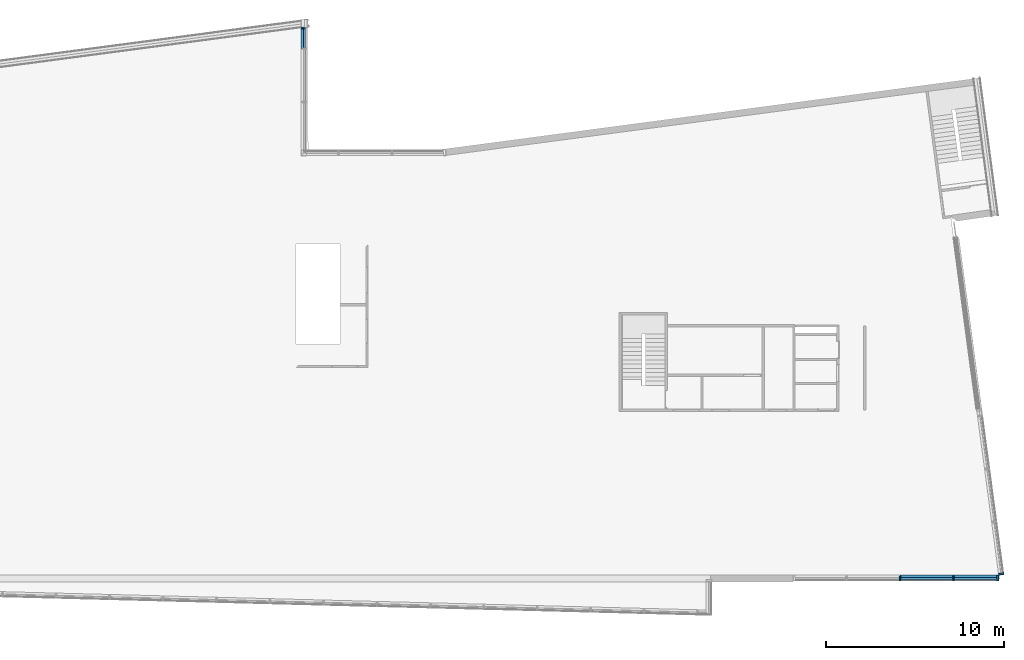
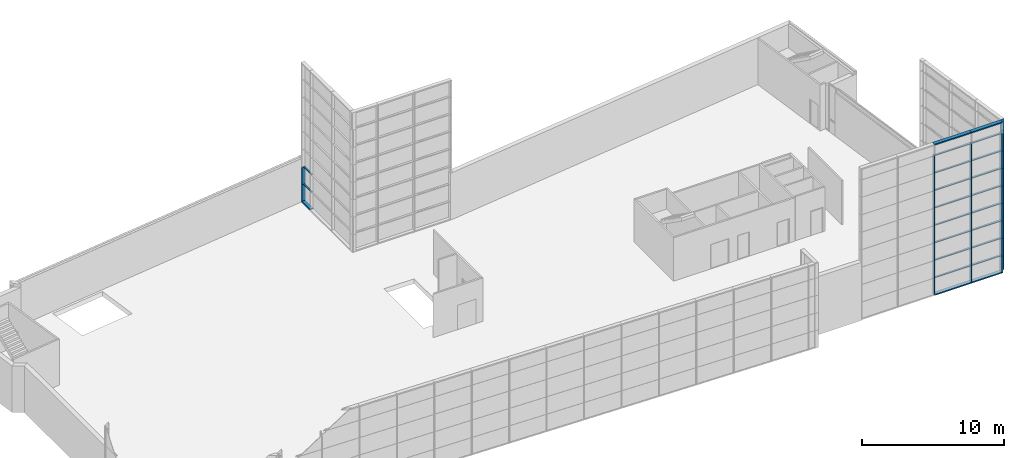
# One storey, part 9 of 27: 58 members, 3 elements without a shape of their own.
"""IFC2X3 building model written with IfcOpenShell, lengths in metres."""

from ifc_helpers import new_model, entity, si_unit, converted_unit, money_unit, direction, frame, origin_with_axes, place, context, subcontext, project, spatial, polyline, outline, extrude, clip, halfspace, material, type_object, element, aggregate, save


model = new_model("IFC2X3")

# Units and contexts
model_context = context("Model", 3, precision=1e-05, world=origin_with_axes(), true_north=direction((0.0, 1.0)))
body_context = subcontext(model_context, "Body", "Model", "MODEL_VIEW")
ifc_project = project(units=[si_unit("LENGTHUNIT", "METRE"), si_unit("AREAUNIT", "SQUARE_METRE"), si_unit("VOLUMEUNIT", "CUBIC_METRE"), converted_unit("PLANEANGLEUNIT", "DEGREE", entity("IfcPlaneAngleMeasure", 0.0174532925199), si_unit("PLANEANGLEUNIT", "RADIAN"), dimensions=[0, 0, 0, 0, 0, 0, 0]), si_unit("SOLIDANGLEUNIT", "STERADIAN"), money_unit("EUR"), converted_unit("TIMEUNIT", "Year", entity("IfcTimeMeasure", 31556926.0), si_unit("TIMEUNIT", "SECOND"), dimensions=[0, 0, 0, 0, 0, 0, 0]), si_unit("MASSUNIT", "GRAM"), si_unit("THERMODYNAMICTEMPERATUREUNIT", "DEGREE_CELSIUS"), si_unit("LUMINOUSINTENSITYUNIT", "LUMEN")], contexts=[model_context])

# Site, building, storey
site_placement = place(None, origin_with_axes())
site = spatial("IfcSite", under=ifc_project, at=site_placement, Name="Undefined", CompositionType="ELEMENT")
building_placement = place(site_placement, origin_with_axes())
building = spatial("IfcBuilding", under=site, at=building_placement, Name="Undefined", CompositionType="ELEMENT")
storey_placement = place(building_placement, frame((0.0, 0.0, 5.4), z_axis=(0.0, 0.0, 1.0), x_axis=(1.0, 0.0, 0.0)))
storey = spatial("IfcBuildingStorey", under=building, at=storey_placement, Name="R+1", CompositionType="ELEMENT", Elevation=5.4)

# Curtain wall, members
curtain_wall_type = type_object("IfcCurtainWallType", Name="Type de mur-rideau", PredefinedType="NOTDEFINED")
curtain_wall_1_placement = place(storey_placement, frame((29.5, 25.04409, 0.0), z_axis=(0.0, 0.0, 1.0), x_axis=(1.0, 0.0, 0.0)))
curtain_wall_1 = element("IfcCurtainWall", 1, at=curtain_wall_1_placement, inside=storey, type_object=curtain_wall_type, Name="CurtainWall_01", ObjectType="CURTAIN WALL")
ifc_material = material(Name="25 % 359672764")
member_type_1 = type_object("IfcMemberType", Name="Cadre 100 x 300", PredefinedType="NOTDEFINED")
member_1_placement = place(curtain_wall_1_placement, frame((0.0, 5.70529012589, 1.5), z_axis=(0.0, 0.0, 1.0), x_axis=(0.0, -1.0, 0.0)))
member_1 = element("IfcMember", 2, at=member_1_placement, type_object=member_type_1, material=ifc_material, Name="Frame-Bnd-267", context=body_context, shape_type="SweptSolid", body=[
    extrude(outline(polyline([(-0.25, -0.1), (0.05, -0.1), (0.05, 0.0), (-0.25, 0.0), (-0.25, -0.1)])), frame((0.0, 0.0, 0.0), z_axis=(0.0, 0.0, 1.0), x_axis=(0.0, 1.0, 0.0)), (0.0, 0.0, 1.0), 1.5),
])
member_2_placement = place(curtain_wall_1_placement, frame((0.0, 5.70529012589, 0.0), z_axis=(0.0, 0.0, 1.0), x_axis=(0.0, -1.0, 0.0)))
member_2 = element("IfcMember", 3, at=member_2_placement, type_object=member_type_1, material=ifc_material, Name="Frame-Bnd-268", context=body_context, shape_type="Clipping", body=[
    clip(extrude(outline(polyline([(-0.25, -0.1), (0.05, -0.1), (0.05, 0.0), (-0.25, 0.0), (-0.25, -0.1)])), frame((0.0, 0.0, 0.0), z_axis=(0.0, 0.0, 1.0), x_axis=(0.0, 1.0, 0.0)), (0.0, 0.0, 1.0), 1.5), halfspace(frame((0.0, 0.0, 0.0), z_axis=(-0.707106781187, 0.0, 0.707106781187), x_axis=(0.0, -1.0, 0.0)), True)),
])
member_3_placement = place(curtain_wall_1_placement, frame((0.0, 4.5, 0.0), z_axis=(0.0, 1.0, 0.0), x_axis=(0.0, 0.0, 1.0)))
member_3 = element("IfcMember", 4, at=member_3_placement, type_object=member_type_1, material=ifc_material, Name="Frame-Bnd-269", context=body_context, shape_type="Clipping", body=[
    clip(extrude(outline(polyline([(-0.25, -0.1), (0.05, -0.1), (0.05, 0.0), (-0.25, 0.0), (-0.25, -0.1)])), frame((0.0, 0.0, 0.0), z_axis=(0.0, 0.0, 1.0), x_axis=(0.0, 1.0, 0.0)), (0.0, 0.0, 1.0), 1.20529012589), halfspace(frame((0.602645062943, 0.0, 0.602645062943), z_axis=(-0.707106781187, 0.0, -0.707106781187), x_axis=(0.0, 1.0, 0.0)), True)),
])

curtain_wall_2_placement = place(storey_placement, frame((68.4320700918, 1.51988738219, -1.0), z_axis=(0.0, 0.0, 1.0), x_axis=(1.0, 0.0, 0.0)))
curtain_wall_2 = element("IfcCurtainWall", 5, at=curtain_wall_2_placement, inside=storey, type_object=curtain_wall_type, Name="CurtainWall_01", ObjectType="CURTAIN WALL")
member_4_placement = place(curtain_wall_2_placement, frame((0.198383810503, -1.48682341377, 0.0), z_axis=(0.0, 0.0, 1.0), x_axis=(0.132255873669, -0.991215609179, 0.0)))
member_4 = element("IfcMember", 6, at=member_4_placement, type_object=member_type_1, material=ifc_material, Name="Frame-Bnd-716", context=body_context, shape_type="Clipping", body=[
    clip(extrude(outline(polyline([(-0.247803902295, -0.0330639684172), (0.0495607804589, 0.00661279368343), (0.0363351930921, 0.105734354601), (-0.261029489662, 0.0660575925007), (-0.247803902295, -0.0330639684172)])), frame((0.0, 0.0, 0.0), z_axis=(0.0, 0.0, 1.0), x_axis=(0.132255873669, 0.991215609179, 0.0)), (0.0, 0.0, 1.0), 1.5), halfspace(frame((0.0, 0.0, 0.0), z_axis=(0.707106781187, 0.0, 0.707106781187), x_axis=(0.0, -1.0, 0.0)), True)),
])
member_5_placement = place(curtain_wall_2_placement, frame((0.198383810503, -1.48682341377, 1.5), z_axis=(0.0, 0.0, 1.0), x_axis=(0.132255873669, -0.991215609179, 0.0)))
member_5 = element("IfcMember", 7, at=member_5_placement, type_object=member_type_1, material=ifc_material, Name="Frame-Bnd-716", context=body_context, shape_type="SweptSolid", body=[
    extrude(outline(polyline([(-0.247803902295, -0.0330639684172), (0.0495607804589, 0.00661279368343), (0.0363351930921, 0.105734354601), (-0.261029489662, 0.0660575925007), (-0.247803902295, -0.0330639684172)])), frame((0.0, 0.0, 0.0), z_axis=(0.0, 0.0, 1.0), x_axis=(0.132255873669, 0.991215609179, 0.0)), (0.0, 0.0, 1.0), 1.5),
])
member_6_placement = place(curtain_wall_2_placement, frame((0.198383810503, -1.48682341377, 3.0), z_axis=(0.0, 0.0, 1.0), x_axis=(0.132255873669, -0.991215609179, 0.0)))
member_6 = element("IfcMember", 8, at=member_6_placement, type_object=member_type_1, material=ifc_material, Name="Frame-Bnd-716", context=body_context, shape_type="SweptSolid", body=[
    extrude(outline(polyline([(-0.247803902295, -0.0330639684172), (0.0495607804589, 0.00661279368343), (0.0363351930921, 0.105734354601), (-0.261029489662, 0.0660575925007), (-0.247803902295, -0.0330639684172)])), frame((0.0, 0.0, 0.0), z_axis=(0.0, 0.0, 1.0), x_axis=(0.132255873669, 0.991215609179, 0.0)), (0.0, 0.0, 1.0), 1.5),
])
member_7_placement = place(curtain_wall_2_placement, frame((0.198383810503, -1.48682341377, 4.5), z_axis=(0.0, 0.0, 1.0), x_axis=(0.132255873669, -0.991215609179, 0.0)))
member_7 = element("IfcMember", 9, at=member_7_placement, type_object=member_type_1, material=ifc_material, Name="Frame-Bnd-716", context=body_context, shape_type="SweptSolid", body=[
    extrude(outline(polyline([(-0.247803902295, -0.0330639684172), (0.0495607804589, 0.00661279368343), (0.0363351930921, 0.105734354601), (-0.261029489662, 0.0660575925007), (-0.247803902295, -0.0330639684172)])), frame((0.0, 0.0, 0.0), z_axis=(0.0, 0.0, 1.0), x_axis=(0.132255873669, 0.991215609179, 0.0)), (0.0, 0.0, 1.0), 1.5),
])
member_8_placement = place(curtain_wall_2_placement, frame((0.198383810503, -1.48682341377, 6.0), z_axis=(0.0, 0.0, 1.0), x_axis=(0.132255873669, -0.991215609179, 0.0)))
member_8 = element("IfcMember", 10, at=member_8_placement, type_object=member_type_1, material=ifc_material, Name="Frame-Bnd-716", context=body_context, shape_type="SweptSolid", body=[
    extrude(outline(polyline([(-0.247803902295, -0.0330639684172), (0.0495607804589, 0.00661279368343), (0.0363351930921, 0.105734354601), (-0.261029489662, 0.0660575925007), (-0.247803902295, -0.0330639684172)])), frame((0.0, 0.0, 0.0), z_axis=(0.0, 0.0, 1.0), x_axis=(0.132255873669, 0.991215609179, 0.0)), (0.0, 0.0, 1.0), 1.5),
])
member_9_placement = place(curtain_wall_2_placement, frame((0.198383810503, -1.48682341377, 7.5), z_axis=(0.0, 0.0, 1.0), x_axis=(0.132255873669, -0.991215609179, 0.0)))
member_9 = element("IfcMember", 11, at=member_9_placement, type_object=member_type_1, material=ifc_material, Name="Frame-Bnd-716", context=body_context, shape_type="SweptSolid", body=[
    extrude(outline(polyline([(-0.247803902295, -0.0330639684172), (0.0495607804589, 0.00661279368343), (0.0363351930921, 0.105734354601), (-0.261029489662, 0.0660575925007), (-0.247803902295, -0.0330639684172)])), frame((0.0, 0.0, 0.0), z_axis=(0.0, 0.0, 1.0), x_axis=(0.132255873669, 0.991215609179, 0.0)), (0.0, 0.0, 1.0), 1.5),
])
member_10_placement = place(curtain_wall_2_placement, frame((0.198383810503, -1.48682341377, 9.0), z_axis=(0.0, 0.0, 1.0), x_axis=(0.132255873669, -0.991215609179, 0.0)))
member_10 = element("IfcMember", 12, at=member_10_placement, type_object=member_type_1, material=ifc_material, Name="Frame-Bnd-716", context=body_context, shape_type="SweptSolid", body=[
    extrude(outline(polyline([(-0.247803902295, -0.0330639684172), (0.0495607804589, 0.00661279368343), (0.0363351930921, 0.105734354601), (-0.261029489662, 0.0660575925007), (-0.247803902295, -0.0330639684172)])), frame((0.0, 0.0, 0.0), z_axis=(0.0, 0.0, 1.0), x_axis=(0.132255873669, 0.991215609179, 0.0)), (0.0, 0.0, 1.0), 1.5),
])
member_11_placement = place(curtain_wall_2_placement, frame((0.198383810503, -1.48682341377, 10.5), z_axis=(0.0, 0.0, 1.0), x_axis=(0.132255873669, -0.991215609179, 0.0)))
member_11 = element("IfcMember", 13, at=member_11_placement, type_object=member_type_1, material=ifc_material, Name="Frame-Bnd-716", context=body_context, shape_type="SweptSolid", body=[
    extrude(outline(polyline([(-0.247803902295, -0.0330639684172), (0.0495607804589, 0.00661279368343), (0.0363351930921, 0.105734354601), (-0.261029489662, 0.0660575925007), (-0.247803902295, -0.0330639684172)])), frame((0.0, 0.0, 0.0), z_axis=(0.0, 0.0, 1.0), x_axis=(0.132255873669, 0.991215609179, 0.0)), (0.0, 0.0, 1.0), 1.5),
])
member_12_placement = place(curtain_wall_2_placement, frame((0.198383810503, -1.48682341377, 12.0), z_axis=(0.0, 0.0, 1.0), x_axis=(0.132255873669, -0.991215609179, 0.0)))
member_12 = element("IfcMember", 14, at=member_12_placement, type_object=member_type_1, material=ifc_material, Name="Frame-Bnd-865", context=body_context, shape_type="Clipping", body=[
    clip(extrude(outline(polyline([(-0.247803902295, -0.0330639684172), (0.0495607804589, 0.00661279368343), (0.0363351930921, 0.105734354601), (-0.261029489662, 0.0660575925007), (-0.247803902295, -0.0330639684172)])), frame((0.0, 0.0, 0.0), z_axis=(0.0, 0.0, 1.0), x_axis=(0.132255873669, 0.991215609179, 0.0)), (0.0, 0.0, 1.0), 1.00000002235), halfspace(frame((-0.500000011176, 0.0, 0.500000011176), z_axis=(0.707106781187, 0.0, -0.707106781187), x_axis=(0.0, 1.0, 0.0)), True)),
])
aggregate(curtain_wall_2, [member_4, member_5, member_6, member_7, member_8, member_9, member_10, member_11, member_12])

curtain_wall_3_placement = place(storey_placement, frame((58.35, -0.25, -1.0), z_axis=(0.0, 0.0, 1.0), x_axis=(1.0, 0.0, 0.0)))
curtain_wall_3 = element("IfcCurtainWall", 15, at=curtain_wall_3_placement, inside=storey, type_object=curtain_wall_type, Name="CurtainWall_01", ObjectType="CURTAIN WALL")
member_13_placement = place(curtain_wall_3_placement, frame((4.5, 0.0, 0.0), z_axis=(1.0, 0.0, 0.0), x_axis=(0.0, 0.0, 1.0)))
member_13 = element("IfcMember", 16, at=member_13_placement, type_object=member_type_1, material=ifc_material, Name="Frame-Bnd-832", context=body_context, shape_type="SweptSolid", body=[
    extrude(outline(polyline([(-0.25, -0.1), (0.05, -0.1), (0.05, 0.0), (-0.25, 0.0), (-0.25, -0.1)])), frame((0.0, 0.0, 0.0), z_axis=(0.0, 0.0, 1.0), x_axis=(0.0, 1.0, 0.0)), (0.0, 0.0, 1.0), 3.0),
])
member_14_placement = place(curtain_wall_3_placement, frame((10.032649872, 0.0, 10.5), z_axis=(0.0, 0.0, 1.0), x_axis=(-1.0, 0.0, 0.0)))
member_14 = element("IfcMember", 17, at=member_14_placement, type_object=member_type_1, material=ifc_material, Name="Frame-Bnd-832", context=body_context, shape_type="SweptSolid", body=[
    extrude(outline(polyline([(-0.1, 0.25), (-0.1, -0.05), (0.0, -0.05), (0.0, 0.25), (-0.1, 0.25)])), frame((0.0, 0.0, 0.0), z_axis=(0.0, 0.0, 1.0), x_axis=(-1.0, 0.0, 0.0)), (0.0, 0.0, 1.0), 1.5),
])
member_15_placement = place(curtain_wall_3_placement, frame((10.032649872, 0.0, 9.0), z_axis=(0.0, 0.0, 1.0), x_axis=(-1.0, 0.0, 0.0)))
member_15 = element("IfcMember", 18, at=member_15_placement, type_object=member_type_1, material=ifc_material, Name="Frame-Bnd-832", context=body_context, shape_type="SweptSolid", body=[
    extrude(outline(polyline([(-0.1, 0.25), (-0.1, -0.05), (0.0, -0.05), (0.0, 0.25), (-0.1, 0.25)])), frame((0.0, 0.0, 0.0), z_axis=(0.0, 0.0, 1.0), x_axis=(-1.0, 0.0, 0.0)), (0.0, 0.0, 1.0), 1.5),
])
member_16_placement = place(curtain_wall_3_placement, frame((10.032649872, 0.0, 7.5), z_axis=(0.0, 0.0, 1.0), x_axis=(-1.0, 0.0, 0.0)))
member_16 = element("IfcMember", 19, at=member_16_placement, type_object=member_type_1, material=ifc_material, Name="Frame-Bnd-832", context=body_context, shape_type="SweptSolid", body=[
    extrude(outline(polyline([(-0.1, 0.25), (-0.1, -0.05), (0.0, -0.05), (0.0, 0.25), (-0.1, 0.25)])), frame((0.0, 0.0, 0.0), z_axis=(0.0, 0.0, 1.0), x_axis=(-1.0, 0.0, 0.0)), (0.0, 0.0, 1.0), 1.5),
])
member_17_placement = place(curtain_wall_3_placement, frame((10.032649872, 0.0, 6.0), z_axis=(0.0, 0.0, 1.0), x_axis=(-1.0, 0.0, 0.0)))
member_17 = element("IfcMember", 20, at=member_17_placement, type_object=member_type_1, material=ifc_material, Name="Frame-Bnd-832", context=body_context, shape_type="SweptSolid", body=[
    extrude(outline(polyline([(-0.1, 0.25), (-0.1, -0.05), (0.0, -0.05), (0.0, 0.25), (-0.1, 0.25)])), frame((0.0, 0.0, 0.0), z_axis=(0.0, 0.0, 1.0), x_axis=(-1.0, 0.0, 0.0)), (0.0, 0.0, 1.0), 1.5),
])
member_18_placement = place(curtain_wall_3_placement, frame((10.032649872, 0.0, 4.5), z_axis=(0.0, 0.0, 1.0), x_axis=(-1.0, 0.0, 0.0)))
member_18 = element("IfcMember", 21, at=member_18_placement, type_object=member_type_1, material=ifc_material, Name="Frame-Bnd-832", context=body_context, shape_type="SweptSolid", body=[
    extrude(outline(polyline([(-0.1, 0.25), (-0.1, -0.05), (0.0, -0.05), (0.0, 0.25), (-0.1, 0.25)])), frame((0.0, 0.0, 0.0), z_axis=(0.0, 0.0, 1.0), x_axis=(-1.0, 0.0, 0.0)), (0.0, 0.0, 1.0), 1.5),
])
member_19_placement = place(curtain_wall_3_placement, frame((10.032649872, 0.0, 3.0), z_axis=(0.0, 0.0, 1.0), x_axis=(-1.0, 0.0, 0.0)))
member_19 = element("IfcMember", 22, at=member_19_placement, type_object=member_type_1, material=ifc_material, Name="Frame-Bnd-832", context=body_context, shape_type="SweptSolid", body=[
    extrude(outline(polyline([(-0.1, 0.25), (-0.1, -0.05), (0.0, -0.05), (0.0, 0.25), (-0.1, 0.25)])), frame((0.0, 0.0, 0.0), z_axis=(0.0, 0.0, 1.0), x_axis=(-1.0, 0.0, 0.0)), (0.0, 0.0, 1.0), 1.5),
])
member_20_placement = place(curtain_wall_3_placement, frame((10.032649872, 0.0, 1.5), z_axis=(0.0, 0.0, 1.0), x_axis=(-1.0, 0.0, 0.0)))
member_20 = element("IfcMember", 23, at=member_20_placement, type_object=member_type_1, material=ifc_material, Name="Frame-Bnd-832", context=body_context, shape_type="SweptSolid", body=[
    extrude(outline(polyline([(-0.1, 0.25), (-0.1, -0.05), (0.0, -0.05), (0.0, 0.25), (-0.1, 0.25)])), frame((0.0, 0.0, 0.0), z_axis=(0.0, 0.0, 1.0), x_axis=(-1.0, 0.0, 0.0)), (0.0, 0.0, 1.0), 1.5),
])
member_21_placement = place(curtain_wall_3_placement, frame((10.032649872, 0.0, 0.0), z_axis=(0.0, 0.0, 1.0), x_axis=(-1.0, 0.0, 0.0)))
member_21 = element("IfcMember", 24, at=member_21_placement, type_object=member_type_1, material=ifc_material, Name="Frame-Bnd-832", context=body_context, shape_type="Clipping", body=[
    clip(extrude(outline(polyline([(-0.1, 0.25), (-0.1, -0.05), (0.0, -0.05), (0.0, 0.25), (-0.1, 0.25)])), frame((0.0, 0.0, 0.0), z_axis=(0.0, 0.0, 1.0), x_axis=(-1.0, 0.0, 0.0)), (0.0, 0.0, 1.0), 1.5), halfspace(frame((0.0, 0.0, 0.0), z_axis=(-0.707106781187, 0.0, 0.707106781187), x_axis=(0.0, -1.0, 0.0)), True)),
])
member_22_placement = place(curtain_wall_3_placement, frame((7.5, 0.0, 0.0), z_axis=(1.0, 0.0, 0.0), x_axis=(0.0, 0.0, 1.0)))
member_22 = element("IfcMember", 25, at=member_22_placement, type_object=member_type_1, material=ifc_material, Name="Frame-Bnd-832", context=body_context, shape_type="Clipping", body=[
    clip(extrude(outline(polyline([(-0.25, -0.1), (0.05, -0.1), (0.05, 0.0), (-0.25, 0.0), (-0.25, -0.1)])), frame((0.0, 0.0, 0.0), z_axis=(0.0, 0.0, 1.0), x_axis=(0.0, 1.0, 0.0)), (0.0, 0.0, 1.0), 2.532649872), halfspace(frame((1.266324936, 0.0, 1.266324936), z_axis=(-0.707106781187, 0.0, -0.707106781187), x_axis=(0.0, 1.0, 0.0)), True)),
])
member_23_placement = place(curtain_wall_3_placement, frame((7.5, 0.0, 13.0000000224), z_axis=(-1.0, 0.0, 0.0), x_axis=(0.0, 0.0, -1.0)))
member_23 = element("IfcMember", 26, at=member_23_placement, type_object=member_type_1, material=ifc_material, Name="Frame-Bnd-906", context=body_context, shape_type="SweptSolid", body=[
    extrude(outline(polyline([(0.25, 0.1), (-0.05, 0.1), (-0.05, 0.0), (0.25, 0.0), (0.25, 0.1)])), frame((0.0, 0.0, 0.0), z_axis=(0.0, 0.0, 1.0), x_axis=(0.0, -1.0, 0.0)), (0.0, 0.0, 1.0), 3.0),
])
member_24_placement = place(curtain_wall_3_placement, frame((10.0326499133, 0.0, 13.0000000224), z_axis=(-1.0, 0.0, 0.0), x_axis=(0.0, 0.0, -1.0)))
member_24 = element("IfcMember", 27, at=member_24_placement, type_object=member_type_1, material=ifc_material, Name="Frame-Bnd-907", context=body_context, shape_type="Clipping", body=[
    clip(extrude(outline(polyline([(0.25, 0.1), (-0.05, 0.1), (-0.05, 0.0), (0.25, 0.0), (0.25, 0.1)])), frame((0.0, 0.0, 0.0), z_axis=(0.0, 0.0, 1.0), x_axis=(0.0, -1.0, 0.0)), (0.0, 0.0, 1.0), 2.53264991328), halfspace(frame((0.0, 0.0, 0.0), z_axis=(-0.70710679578, 0.0, 0.707106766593), x_axis=(0.0, -1.0, 0.0)), True)),
])
member_type_2 = type_object("IfcMemberType", Name="Montant 80 x 250", PredefinedType="NOTDEFINED")
member_25_placement = place(curtain_wall_3_placement, frame((4.5, 0.0, 0.0), z_axis=(0.0, 0.0, 1.0), x_axis=(-1.0, 0.0, 0.0)))
member_25 = element("IfcMember", 28, at=member_25_placement, type_object=member_type_2, material=ifc_material, Name="Frame-Mll-300", context=body_context, shape_type="SweptSolid", body=[
    extrude(outline(polyline([(-0.04, 0.2), (-0.04, -0.05), (0.04, -0.05), (0.04, 0.2), (-0.04, 0.2)])), frame((0.0, 0.0, 0.1), z_axis=(0.0, 0.0, 1.0), x_axis=(-1.0, 0.0, 0.0)), (0.0, 0.0, 1.0), 1.4),
])
member_26_placement = place(curtain_wall_3_placement, frame((7.5, 0.0, 0.0), z_axis=(0.0, 0.0, 1.0), x_axis=(-1.0, 0.0, 0.0)))
member_26 = element("IfcMember", 29, at=member_26_placement, type_object=member_type_2, material=ifc_material, Name="Frame-Mll-300", context=body_context, shape_type="SweptSolid", body=[
    extrude(outline(polyline([(-0.04, 0.2), (-0.04, -0.05), (0.04, -0.05), (0.04, 0.2), (-0.04, 0.2)])), frame((0.0, 0.0, 0.1), z_axis=(0.0, 0.0, 1.0), x_axis=(-1.0, 0.0, 0.0)), (0.0, 0.0, 1.0), 1.4),
])
member_27_placement = place(curtain_wall_3_placement, frame((4.5, 0.0, 1.5), z_axis=(0.0, 0.0, 1.0), x_axis=(-1.0, 0.0, 0.0)))
member_27 = element("IfcMember", 30, at=member_27_placement, type_object=member_type_2, material=ifc_material, Name="Frame-Mll-300", context=body_context, shape_type="SweptSolid", body=[
    extrude(outline(polyline([(-0.04, 0.2), (-0.04, -0.05), (0.04, -0.05), (0.04, 0.2), (-0.04, 0.2)])), frame((0.0, 0.0, 0.0), z_axis=(0.0, 0.0, 1.0), x_axis=(-1.0, 0.0, 0.0)), (0.0, 0.0, 1.0), 1.5),
])
member_28_placement = place(curtain_wall_3_placement, frame((7.5, 0.0, 1.5), z_axis=(0.0, 0.0, 1.0), x_axis=(-1.0, 0.0, 0.0)))
member_28 = element("IfcMember", 31, at=member_28_placement, type_object=member_type_2, material=ifc_material, Name="Frame-Mll-300", context=body_context, shape_type="SweptSolid", body=[
    extrude(outline(polyline([(-0.04, 0.2), (-0.04, -0.05), (0.04, -0.05), (0.04, 0.2), (-0.04, 0.2)])), frame((0.0, 0.0, 0.0), z_axis=(0.0, 0.0, 1.0), x_axis=(-1.0, 0.0, 0.0)), (0.0, 0.0, 1.0), 1.5),
])
member_29_placement = place(curtain_wall_3_placement, frame((4.5, 0.0, 3.0), z_axis=(0.0, 0.0, 1.0), x_axis=(-1.0, 0.0, 0.0)))
member_29 = element("IfcMember", 32, at=member_29_placement, type_object=member_type_2, material=ifc_material, Name="Frame-Mll-300", context=body_context, shape_type="SweptSolid", body=[
    extrude(outline(polyline([(-0.04, 0.2), (-0.04, -0.05), (0.04, -0.05), (0.04, 0.2), (-0.04, 0.2)])), frame((0.0, 0.0, 0.0), z_axis=(0.0, 0.0, 1.0), x_axis=(-1.0, 0.0, 0.0)), (0.0, 0.0, 1.0), 1.5),
])
member_30_placement = place(curtain_wall_3_placement, frame((7.5, 0.0, 3.0), z_axis=(0.0, 0.0, 1.0), x_axis=(-1.0, 0.0, 0.0)))
member_30 = element("IfcMember", 33, at=member_30_placement, type_object=member_type_2, material=ifc_material, Name="Frame-Mll-300", context=body_context, shape_type="SweptSolid", body=[
    extrude(outline(polyline([(-0.04, 0.2), (-0.04, -0.05), (0.04, -0.05), (0.04, 0.2), (-0.04, 0.2)])), frame((0.0, 0.0, 0.0), z_axis=(0.0, 0.0, 1.0), x_axis=(-1.0, 0.0, 0.0)), (0.0, 0.0, 1.0), 1.5),
])
member_31_placement = place(curtain_wall_3_placement, frame((4.5, 0.0, 4.5), z_axis=(0.0, 0.0, 1.0), x_axis=(-1.0, 0.0, 0.0)))
member_31 = element("IfcMember", 34, at=member_31_placement, type_object=member_type_2, material=ifc_material, Name="Frame-Mll-300", context=body_context, shape_type="SweptSolid", body=[
    extrude(outline(polyline([(-0.04, 0.2), (-0.04, -0.05), (0.04, -0.05), (0.04, 0.2), (-0.04, 0.2)])), frame((0.0, 0.0, 0.0), z_axis=(0.0, 0.0, 1.0), x_axis=(-1.0, 0.0, 0.0)), (0.0, 0.0, 1.0), 1.5),
])
member_32_placement = place(curtain_wall_3_placement, frame((7.5, 0.0, 4.5), z_axis=(0.0, 0.0, 1.0), x_axis=(-1.0, 0.0, 0.0)))
member_32 = element("IfcMember", 35, at=member_32_placement, type_object=member_type_2, material=ifc_material, Name="Frame-Mll-300", context=body_context, shape_type="SweptSolid", body=[
    extrude(outline(polyline([(-0.04, 0.2), (-0.04, -0.05), (0.04, -0.05), (0.04, 0.2), (-0.04, 0.2)])), frame((0.0, 0.0, 0.0), z_axis=(0.0, 0.0, 1.0), x_axis=(-1.0, 0.0, 0.0)), (0.0, 0.0, 1.0), 1.5),
])
member_33_placement = place(curtain_wall_3_placement, frame((4.5, 0.0, 6.0), z_axis=(0.0, 0.0, 1.0), x_axis=(-1.0, 0.0, 0.0)))
member_33 = element("IfcMember", 36, at=member_33_placement, type_object=member_type_2, material=ifc_material, Name="Frame-Mll-300", context=body_context, shape_type="SweptSolid", body=[
    extrude(outline(polyline([(-0.04, 0.2), (-0.04, -0.05), (0.04, -0.05), (0.04, 0.2), (-0.04, 0.2)])), frame((0.0, 0.0, 0.0), z_axis=(0.0, 0.0, 1.0), x_axis=(-1.0, 0.0, 0.0)), (0.0, 0.0, 1.0), 1.5),
])
member_34_placement = place(curtain_wall_3_placement, frame((7.5, 0.0, 6.0), z_axis=(0.0, 0.0, 1.0), x_axis=(-1.0, 0.0, 0.0)))
member_34 = element("IfcMember", 37, at=member_34_placement, type_object=member_type_2, material=ifc_material, Name="Frame-Mll-300", context=body_context, shape_type="SweptSolid", body=[
    extrude(outline(polyline([(-0.04, 0.2), (-0.04, -0.05), (0.04, -0.05), (0.04, 0.2), (-0.04, 0.2)])), frame((0.0, 0.0, 0.0), z_axis=(0.0, 0.0, 1.0), x_axis=(-1.0, 0.0, 0.0)), (0.0, 0.0, 1.0), 1.5),
])
member_35_placement = place(curtain_wall_3_placement, frame((4.5, 0.0, 7.5), z_axis=(0.0, 0.0, 1.0), x_axis=(-1.0, 0.0, 0.0)))
member_35 = element("IfcMember", 38, at=member_35_placement, type_object=member_type_2, material=ifc_material, Name="Frame-Mll-300", context=body_context, shape_type="SweptSolid", body=[
    extrude(outline(polyline([(-0.04, 0.2), (-0.04, -0.05), (0.04, -0.05), (0.04, 0.2), (-0.04, 0.2)])), frame((0.0, 0.0, 0.0), z_axis=(0.0, 0.0, 1.0), x_axis=(-1.0, 0.0, 0.0)), (0.0, 0.0, 1.0), 1.5),
])
member_36_placement = place(curtain_wall_3_placement, frame((7.5, 0.0, 7.5), z_axis=(0.0, 0.0, 1.0), x_axis=(-1.0, 0.0, 0.0)))
member_36 = element("IfcMember", 39, at=member_36_placement, type_object=member_type_2, material=ifc_material, Name="Frame-Mll-300", context=body_context, shape_type="SweptSolid", body=[
    extrude(outline(polyline([(-0.04, 0.2), (-0.04, -0.05), (0.04, -0.05), (0.04, 0.2), (-0.04, 0.2)])), frame((0.0, 0.0, 0.0), z_axis=(0.0, 0.0, 1.0), x_axis=(-1.0, 0.0, 0.0)), (0.0, 0.0, 1.0), 1.5),
])
member_37_placement = place(curtain_wall_3_placement, frame((4.5, 0.0, 9.0), z_axis=(0.0, 0.0, 1.0), x_axis=(-1.0, 0.0, 0.0)))
member_37 = element("IfcMember", 40, at=member_37_placement, type_object=member_type_2, material=ifc_material, Name="Frame-Mll-300", context=body_context, shape_type="SweptSolid", body=[
    extrude(outline(polyline([(-0.04, 0.2), (-0.04, -0.05), (0.04, -0.05), (0.04, 0.2), (-0.04, 0.2)])), frame((0.0, 0.0, 0.0), z_axis=(0.0, 0.0, 1.0), x_axis=(-1.0, 0.0, 0.0)), (0.0, 0.0, 1.0), 1.5),
])
member_38_placement = place(curtain_wall_3_placement, frame((7.5, 0.0, 9.0), z_axis=(0.0, 0.0, 1.0), x_axis=(-1.0, 0.0, 0.0)))
member_38 = element("IfcMember", 41, at=member_38_placement, type_object=member_type_2, material=ifc_material, Name="Frame-Mll-300", context=body_context, shape_type="SweptSolid", body=[
    extrude(outline(polyline([(-0.04, 0.2), (-0.04, -0.05), (0.04, -0.05), (0.04, 0.2), (-0.04, 0.2)])), frame((0.0, 0.0, 0.0), z_axis=(0.0, 0.0, 1.0), x_axis=(-1.0, 0.0, 0.0)), (0.0, 0.0, 1.0), 1.5),
])
member_39_placement = place(curtain_wall_3_placement, frame((4.5, 0.0, 10.5), z_axis=(0.0, 0.0, 1.0), x_axis=(-1.0, 0.0, 0.0)))
member_39 = element("IfcMember", 42, at=member_39_placement, type_object=member_type_2, material=ifc_material, Name="Frame-Mll-300", context=body_context, shape_type="SweptSolid", body=[
    extrude(outline(polyline([(-0.04, 0.2), (-0.04, -0.05), (0.04, -0.05), (0.04, 0.2), (-0.04, 0.2)])), frame((0.0, 0.0, 0.0), z_axis=(0.0, 0.0, 1.0), x_axis=(-1.0, 0.0, 0.0)), (0.0, 0.0, 1.0), 1.5),
])
member_40_placement = place(curtain_wall_3_placement, frame((7.5, 0.0, 10.5), z_axis=(0.0, 0.0, 1.0), x_axis=(-1.0, 0.0, 0.0)))
member_40 = element("IfcMember", 43, at=member_40_placement, type_object=member_type_2, material=ifc_material, Name="Frame-Mll-300", context=body_context, shape_type="SweptSolid", body=[
    extrude(outline(polyline([(-0.04, 0.2), (-0.04, -0.05), (0.04, -0.05), (0.04, 0.2), (-0.04, 0.2)])), frame((0.0, 0.0, 0.0), z_axis=(0.0, 0.0, 1.0), x_axis=(-1.0, 0.0, 0.0)), (0.0, 0.0, 1.0), 1.5),
])

# Member
member_type_3 = type_object("IfcMemberType", Name="Traverse 60 x 100", PredefinedType="NOTDEFINED")
member_41_placement = place(curtain_wall_1_placement, frame((0.0, 4.5, 3.0), z_axis=(0.0, 1.0, 0.0), x_axis=(0.0, 0.0, 1.0)))
member_41 = element("IfcMember", 44, at=member_41_placement, type_object=member_type_3, material=ifc_material, Name="Frame-Trs-043", context=body_context, shape_type="SweptSolid", body=[
    extrude(outline(polyline([(-0.11, -0.03), (-0.01, -0.03), (-0.01, 0.03), (-0.11, 0.03), (-0.11, -0.03)])), frame((0.0, 0.0, 0.04), z_axis=(0.0, 0.0, 1.0), x_axis=(0.0, 1.0, 0.0)), (0.0, 0.0, 1.0), 1.06529012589),
])

member_42_placement = place(curtain_wall_1_placement, frame((0.0, 4.5, 1.5), z_axis=(0.0, 1.0, 0.0), x_axis=(0.0, 0.0, 1.0)))
member_42 = element("IfcMember", 45, at=member_42_placement, type_object=member_type_3, material=ifc_material, Name="Frame-Trs-044", context=body_context, shape_type="SweptSolid", body=[
    extrude(outline(polyline([(-0.11, -0.03), (-0.01, -0.03), (-0.01, 0.03), (-0.11, 0.03), (-0.11, -0.03)])), frame((0.0, 0.0, 0.04), z_axis=(0.0, 0.0, 1.0), x_axis=(0.0, 1.0, 0.0)), (0.0, 0.0, 1.0), 1.06529012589),
])

aggregate(curtain_wall_1, [member_41, member_1, member_42, member_2, member_3])

member_43_placement = place(curtain_wall_3_placement, frame((4.5, 0.0, 1.5), z_axis=(1.0, 0.0, 0.0), x_axis=(0.0, 0.0, 1.0)))
member_43 = element("IfcMember", 46, at=member_43_placement, type_object=member_type_3, material=ifc_material, Name="Frame-Trs-769", context=body_context, shape_type="SweptSolid", body=[
    extrude(outline(polyline([(-0.11, -0.03), (-0.01, -0.03), (-0.01, 0.03), (-0.11, 0.03), (-0.11, -0.03)])), frame((0.0, 0.0, 0.04), z_axis=(0.0, 0.0, 1.0), x_axis=(0.0, 1.0, 0.0)), (0.0, 0.0, 1.0), 2.92),
])

member_44_placement = place(curtain_wall_3_placement, frame((4.5, 0.0, 3.0), z_axis=(1.0, 0.0, 0.0), x_axis=(0.0, 0.0, 1.0)))
member_44 = element("IfcMember", 47, at=member_44_placement, type_object=member_type_3, material=ifc_material, Name="Frame-Trs-769", context=body_context, shape_type="SweptSolid", body=[
    extrude(outline(polyline([(-0.11, -0.03), (-0.01, -0.03), (-0.01, 0.03), (-0.11, 0.03), (-0.11, -0.03)])), frame((0.0, 0.0, 0.04), z_axis=(0.0, 0.0, 1.0), x_axis=(0.0, 1.0, 0.0)), (0.0, 0.0, 1.0), 2.92),
])

member_45_placement = place(curtain_wall_3_placement, frame((4.5, 0.0, 4.5), z_axis=(1.0, 0.0, 0.0), x_axis=(0.0, 0.0, 1.0)))
member_45 = element("IfcMember", 48, at=member_45_placement, type_object=member_type_3, material=ifc_material, Name="Frame-Trs-769", context=body_context, shape_type="SweptSolid", body=[
    extrude(outline(polyline([(-0.11, -0.03), (-0.01, -0.03), (-0.01, 0.03), (-0.11, 0.03), (-0.11, -0.03)])), frame((0.0, 0.0, 0.04), z_axis=(0.0, 0.0, 1.0), x_axis=(0.0, 1.0, 0.0)), (0.0, 0.0, 1.0), 2.92),
])

member_46_placement = place(curtain_wall_3_placement, frame((4.5, 0.0, 6.0), z_axis=(1.0, 0.0, 0.0), x_axis=(0.0, 0.0, 1.0)))
member_46 = element("IfcMember", 49, at=member_46_placement, type_object=member_type_3, material=ifc_material, Name="Frame-Trs-769", context=body_context, shape_type="SweptSolid", body=[
    extrude(outline(polyline([(-0.11, -0.03), (-0.01, -0.03), (-0.01, 0.03), (-0.11, 0.03), (-0.11, -0.03)])), frame((0.0, 0.0, 0.04), z_axis=(0.0, 0.0, 1.0), x_axis=(0.0, 1.0, 0.0)), (0.0, 0.0, 1.0), 2.92),
])

member_47_placement = place(curtain_wall_3_placement, frame((4.5, 0.0, 7.5), z_axis=(1.0, 0.0, 0.0), x_axis=(0.0, 0.0, 1.0)))
member_47 = element("IfcMember", 50, at=member_47_placement, type_object=member_type_3, material=ifc_material, Name="Frame-Trs-769", context=body_context, shape_type="SweptSolid", body=[
    extrude(outline(polyline([(-0.11, -0.03), (-0.01, -0.03), (-0.01, 0.03), (-0.11, 0.03), (-0.11, -0.03)])), frame((0.0, 0.0, 0.04), z_axis=(0.0, 0.0, 1.0), x_axis=(0.0, 1.0, 0.0)), (0.0, 0.0, 1.0), 2.92),
])

member_48_placement = place(curtain_wall_3_placement, frame((4.5, 0.0, 9.0), z_axis=(1.0, 0.0, 0.0), x_axis=(0.0, 0.0, 1.0)))
member_48 = element("IfcMember", 51, at=member_48_placement, type_object=member_type_3, material=ifc_material, Name="Frame-Trs-769", context=body_context, shape_type="SweptSolid", body=[
    extrude(outline(polyline([(-0.11, -0.03), (-0.01, -0.03), (-0.01, 0.03), (-0.11, 0.03), (-0.11, -0.03)])), frame((0.0, 0.0, 0.04), z_axis=(0.0, 0.0, 1.0), x_axis=(0.0, 1.0, 0.0)), (0.0, 0.0, 1.0), 2.92),
])

member_49_placement = place(curtain_wall_3_placement, frame((4.5, 0.0, 10.5), z_axis=(1.0, 0.0, 0.0), x_axis=(0.0, 0.0, 1.0)))
member_49 = element("IfcMember", 52, at=member_49_placement, type_object=member_type_3, material=ifc_material, Name="Frame-Trs-769", context=body_context, shape_type="SweptSolid", body=[
    extrude(outline(polyline([(-0.11, -0.03), (-0.01, -0.03), (-0.01, 0.03), (-0.11, 0.03), (-0.11, -0.03)])), frame((0.0, 0.0, 0.04), z_axis=(0.0, 0.0, 1.0), x_axis=(0.0, 1.0, 0.0)), (0.0, 0.0, 1.0), 2.92),
])

member_50_placement = place(curtain_wall_3_placement, frame((4.5, 0.0, 12.0), z_axis=(1.0, 0.0, 0.0), x_axis=(0.0, 0.0, 1.0)))
member_50 = element("IfcMember", 53, at=member_50_placement, type_object=member_type_3, material=ifc_material, Name="Frame-Trs-783", context=body_context, shape_type="SweptSolid", body=[
    extrude(outline(polyline([(-0.11, -0.03), (-0.01, -0.03), (-0.01, 0.03), (-0.11, 0.03), (-0.11, -0.03)])), frame((0.0, 0.0, 0.04), z_axis=(0.0, 0.0, 1.0), x_axis=(0.0, 1.0, 0.0)), (0.0, 0.0, 1.0), 2.92),
])

member_51_placement = place(curtain_wall_3_placement, frame((7.5, 0.0, 12.0), z_axis=(1.0, 0.0, 0.0), x_axis=(0.0, 0.0, 1.0)))
member_51 = element("IfcMember", 54, at=member_51_placement, type_object=member_type_3, material=ifc_material, Name="Frame-Trs-783", context=body_context, shape_type="SweptSolid", body=[
    extrude(outline(polyline([(-0.11, -0.03), (-0.01, -0.03), (-0.01, 0.03), (-0.11, 0.03), (-0.11, -0.03)])), frame((0.0, 0.0, 0.04), z_axis=(0.0, 0.0, 1.0), x_axis=(0.0, 1.0, 0.0)), (0.0, 0.0, 1.0), 2.392649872),
])

member_52_placement = place(curtain_wall_3_placement, frame((7.5, 0.0, 10.5), z_axis=(1.0, 0.0, 0.0), x_axis=(0.0, 0.0, 1.0)))
member_52 = element("IfcMember", 55, at=member_52_placement, type_object=member_type_3, material=ifc_material, Name="Frame-Trs-769", context=body_context, shape_type="SweptSolid", body=[
    extrude(outline(polyline([(-0.11, -0.03), (-0.01, -0.03), (-0.01, 0.03), (-0.11, 0.03), (-0.11, -0.03)])), frame((0.0, 0.0, 0.04), z_axis=(0.0, 0.0, 1.0), x_axis=(0.0, 1.0, 0.0)), (0.0, 0.0, 1.0), 2.392649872),
])

member_53_placement = place(curtain_wall_3_placement, frame((7.5, 0.0, 9.0), z_axis=(1.0, 0.0, 0.0), x_axis=(0.0, 0.0, 1.0)))
member_53 = element("IfcMember", 56, at=member_53_placement, type_object=member_type_3, material=ifc_material, Name="Frame-Trs-769", context=body_context, shape_type="SweptSolid", body=[
    extrude(outline(polyline([(-0.11, -0.03), (-0.01, -0.03), (-0.01, 0.03), (-0.11, 0.03), (-0.11, -0.03)])), frame((0.0, 0.0, 0.04), z_axis=(0.0, 0.0, 1.0), x_axis=(0.0, 1.0, 0.0)), (0.0, 0.0, 1.0), 2.392649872),
])

member_54_placement = place(curtain_wall_3_placement, frame((7.5, 0.0, 7.5), z_axis=(1.0, 0.0, 0.0), x_axis=(0.0, 0.0, 1.0)))
member_54 = element("IfcMember", 57, at=member_54_placement, type_object=member_type_3, material=ifc_material, Name="Frame-Trs-769", context=body_context, shape_type="SweptSolid", body=[
    extrude(outline(polyline([(-0.11, -0.03), (-0.01, -0.03), (-0.01, 0.03), (-0.11, 0.03), (-0.11, -0.03)])), frame((0.0, 0.0, 0.04), z_axis=(0.0, 0.0, 1.0), x_axis=(0.0, 1.0, 0.0)), (0.0, 0.0, 1.0), 2.392649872),
])

member_55_placement = place(curtain_wall_3_placement, frame((7.5, 0.0, 6.0), z_axis=(1.0, 0.0, 0.0), x_axis=(0.0, 0.0, 1.0)))
member_55 = element("IfcMember", 58, at=member_55_placement, type_object=member_type_3, material=ifc_material, Name="Frame-Trs-769", context=body_context, shape_type="SweptSolid", body=[
    extrude(outline(polyline([(-0.11, -0.03), (-0.01, -0.03), (-0.01, 0.03), (-0.11, 0.03), (-0.11, -0.03)])), frame((0.0, 0.0, 0.04), z_axis=(0.0, 0.0, 1.0), x_axis=(0.0, 1.0, 0.0)), (0.0, 0.0, 1.0), 2.392649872),
])

member_56_placement = place(curtain_wall_3_placement, frame((7.5, 0.0, 4.5), z_axis=(1.0, 0.0, 0.0), x_axis=(0.0, 0.0, 1.0)))
member_56 = element("IfcMember", 59, at=member_56_placement, type_object=member_type_3, material=ifc_material, Name="Frame-Trs-769", context=body_context, shape_type="SweptSolid", body=[
    extrude(outline(polyline([(-0.11, -0.03), (-0.01, -0.03), (-0.01, 0.03), (-0.11, 0.03), (-0.11, -0.03)])), frame((0.0, 0.0, 0.04), z_axis=(0.0, 0.0, 1.0), x_axis=(0.0, 1.0, 0.0)), (0.0, 0.0, 1.0), 2.392649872),
])

member_57_placement = place(curtain_wall_3_placement, frame((7.5, 0.0, 3.0), z_axis=(1.0, 0.0, 0.0), x_axis=(0.0, 0.0, 1.0)))
member_57 = element("IfcMember", 60, at=member_57_placement, type_object=member_type_3, material=ifc_material, Name="Frame-Trs-769", context=body_context, shape_type="SweptSolid", body=[
    extrude(outline(polyline([(-0.11, -0.03), (-0.01, -0.03), (-0.01, 0.03), (-0.11, 0.03), (-0.11, -0.03)])), frame((0.0, 0.0, 0.04), z_axis=(0.0, 0.0, 1.0), x_axis=(0.0, 1.0, 0.0)), (0.0, 0.0, 1.0), 2.392649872),
])

member_58_placement = place(curtain_wall_3_placement, frame((7.5, 0.0, 1.5), z_axis=(1.0, 0.0, 0.0), x_axis=(0.0, 0.0, 1.0)))
member_58 = element("IfcMember", 61, at=member_58_placement, type_object=member_type_3, material=ifc_material, Name="Frame-Trs-769", context=body_context, shape_type="SweptSolid", body=[
    extrude(outline(polyline([(-0.11, -0.03), (-0.01, -0.03), (-0.01, 0.03), (-0.11, 0.03), (-0.11, -0.03)])), frame((0.0, 0.0, 0.04), z_axis=(0.0, 0.0, 1.0), x_axis=(0.0, 1.0, 0.0)), (0.0, 0.0, 1.0), 2.392649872),
])

aggregate(curtain_wall_3, [member_13, member_25, member_26, member_43, member_27, member_28, member_44, member_29, member_30, member_45, member_31, member_32, member_46, member_33, member_34, member_47, member_35, member_36, member_48, member_37, member_38, member_49, member_39, member_40, member_50, member_51, member_14, member_52, member_15, member_53, member_16, member_54, member_17, member_55, member_18, member_56, member_19, member_57, member_20, member_58, member_21, member_22, member_23, member_24])

save(model, "model.ifc")
